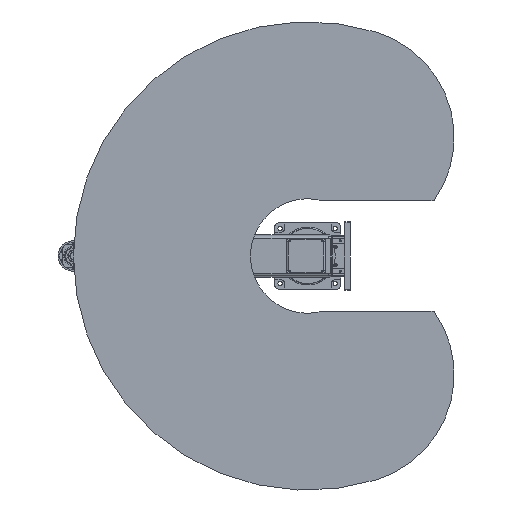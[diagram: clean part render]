
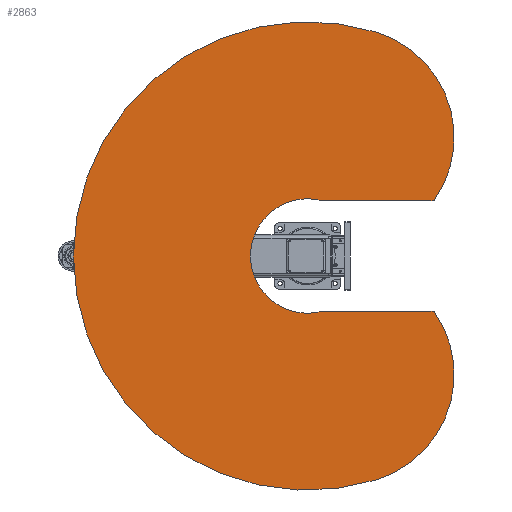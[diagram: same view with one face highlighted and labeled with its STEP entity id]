
A CAD part, front view. The second image highlights one B-rep face of the part: STEP entity #2863.
In plain terms, the highlighted planar face has unit normal (0, -1, 0).
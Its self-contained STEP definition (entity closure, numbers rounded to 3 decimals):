
#2863 = ADVANCED_FACE( '', ( #8135 ), #8136, .F. );
#8135 = FACE_OUTER_BOUND( '', #16904, .T. );
#8136 = PLANE( '', #16905 );
#16904 = EDGE_LOOP( '', ( #27055, #27056, #27057, #27058, #27059, #27060 ) );
#16905 = AXIS2_PLACEMENT_3D( '', #27061, #27062, #27063 );
#27055 = ORIENTED_EDGE( '', *, *, #48086, .F. );
#27056 = ORIENTED_EDGE( '', *, *, #48087, .F. );
#27057 = ORIENTED_EDGE( '', *, *, #48088, .T. );
#27058 = ORIENTED_EDGE( '', *, *, #48089, .F. );
#27059 = ORIENTED_EDGE( '', *, *, #48090, .F. );
#27060 = ORIENTED_EDGE( '', *, *, #48091, .F. );
#27061 = CARTESIAN_POINT( '', ( 430.337, 0., 131.567 ) );
#27062 = DIRECTION( '', ( 0., 1., 0. ) );
#27063 = DIRECTION( '', ( 0., 0., 1. ) );
#48086 = EDGE_CURVE( '', #56545, #56546, #56547, .T. );
#48087 = EDGE_CURVE( '', #56548, #56545, #56549, .T. );
#48088 = EDGE_CURVE( '', #56548, #56550, #56551, .T. );
#48089 = EDGE_CURVE( '', #56552, #56550, #56553, .T. );
#48090 = EDGE_CURVE( '', #56554, #56552, #56555, .T. );
#48091 = EDGE_CURVE( '', #56546, #56554, #56556, .T. );
#56545 = VERTEX_POINT( '', #69083 );
#56546 = VERTEX_POINT( '', #69084 );
#56547 = CIRCLE( '', #69085, 400. );
#56548 = VERTEX_POINT( '', #69086 );
#56549 = LINE( '', #69087, #69088 );
#56550 = VERTEX_POINT( '', #69089 );
#56551 = CIRCLE( '', #69090, 207.8 );
#56552 = VERTEX_POINT( '', #69091 );
#56553 = LINE( '', #69092, #69093 );
#56554 = VERTEX_POINT( '', #69094 );
#56555 = CIRCLE( '', #69095, 400. );
#56556 = CIRCLE( '', #69096, 850. );
#69083 = CARTESIAN_POINT( '', ( 200., 0., 458.591 ) );
#69084 = CARTESIAN_POINT( '', ( 812.859, 0., 248.516 ) );
#69085 = AXIS2_PLACEMENT_3D( '', #88534, #88535, #88536 );
#69086 = CARTESIAN_POINT( '', ( 200., 0., 56.399 ) );
#69087 = CARTESIAN_POINT( '', ( 200., 0., 56.399 ) );
#69088 = VECTOR( '', #88537, 1000. );
#69089 = CARTESIAN_POINT( '', ( -200., 0., 56.399 ) );
#69090 = AXIS2_PLACEMENT_3D( '', #88538, #88539, #88540 );
#69091 = CARTESIAN_POINT( '', ( -200., 0., 458.591 ) );
#69092 = CARTESIAN_POINT( '', ( -200., 0., 458.591 ) );
#69093 = VECTOR( '', #88541, 1000. );
#69094 = CARTESIAN_POINT( '', ( -812.859, 0., 248.516 ) );
#69095 = AXIS2_PLACEMENT_3D( '', #88542, #88543, #88544 );
#69096 = AXIS2_PLACEMENT_3D( '', #88545, #88546, #88547 );
#88534 = CARTESIAN_POINT( '', ( 430.337, 0., 131.567 ) );
#88535 = DIRECTION( '', ( 0., 1., 0. ) );
#88536 = DIRECTION( '', ( 1., 0., 0. ) );
#88537 = DIRECTION( '', ( 0., 0., 1. ) );
#88538 = CARTESIAN_POINT( '', ( 0., 0., 0. ) );
#88539 = DIRECTION( '', ( 0., 1., 0. ) );
#88540 = DIRECTION( '', ( 1., 0., 0. ) );
#88541 = DIRECTION( '', ( 0., 0., -1. ) );
#88542 = CARTESIAN_POINT( '', ( -430.337, 0., 131.567 ) );
#88543 = DIRECTION( '', ( 0., 1., 0. ) );
#88544 = DIRECTION( '', ( 1., 0., 0. ) );
#88545 = CARTESIAN_POINT( '', ( 0., 0., 0. ) );
#88546 = DIRECTION( '', ( 0., 1., 0. ) );
#88547 = DIRECTION( '', ( 1., 0., 0. ) );
